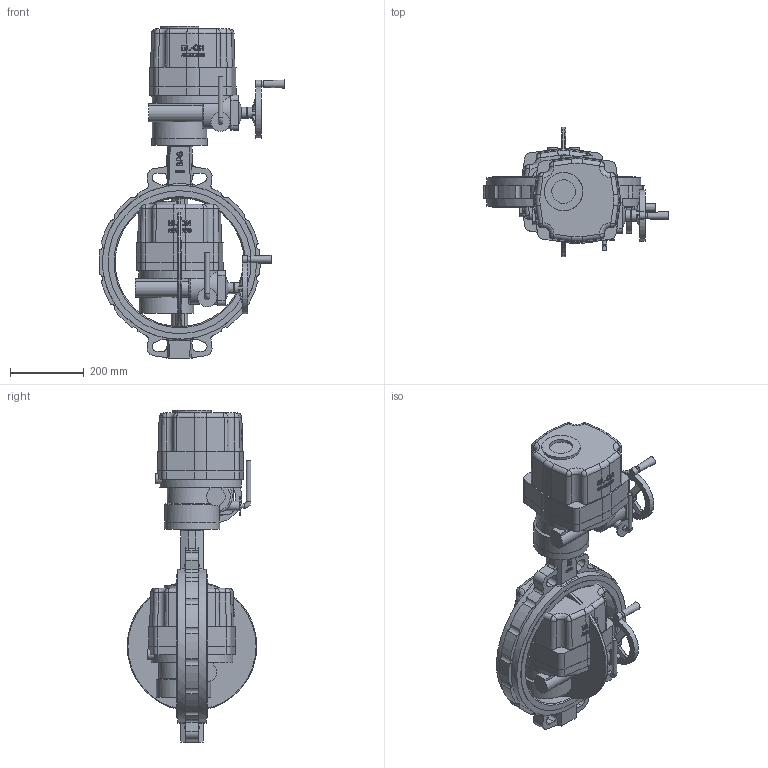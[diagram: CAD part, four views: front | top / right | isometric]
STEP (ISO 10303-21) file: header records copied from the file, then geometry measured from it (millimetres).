
FILE_DESCRIPTION( ( 'Unknown' ), '1' );
FILE_NAME( 'R:/ECCUA/ROOTSI BPS 3D vidinad/Poordklapid Wafer type/Butterfly valve(wafer) with electric actuator BPS/STEP formaat/BPS 2303350E(R) butterfly valve DN350.stp', 'Unknown', ( 'Unknown' ), ( 'Unknown' ), 'PSStep 10.1', 'Unknown', ' ' );
FILE_SCHEMA( ( 'AUTOMOTIVE_DESIGN { 1 0 10303 214 1 1 1 1 }' ) );
Length unit declared in the file: millimetre
Products named in the file (3): Assem1; Butterfly valve wafer type DN350 BPS; BPS 8005300-500 electric actuator DN200-350
Bounding box: 504.71 x 352 x 901 mm (x, y, z)
Volume: 35685399.9 mm3; surface area: 2178855.8 mm2
Topology: 4 solids, 4 shells, 1128 faces, 3016 edges, 1954 vertices
Faces by surface type: plane 424, cylinder 322, bspline 142, extrusion 98, cone 96, torus 30, sphere 16
Full cylindrical faces by diameter (mm): 8.376 x16, 10.106 x16, 13 x4, 14 x8, 15 x2, 18 x2, 25 x2, 27 x4, 30 x4, 35 x2, 52 x2, 64 x2, 104 x2, 106 x2, 134 x2, 148 x2, 150 x2, 350 x2, 388 x4, 418 x4
Entity records: 32889 total; most frequent: CARTESIAN_POINT 15459, ORIENTED_EDGE 2814, DIRECTION 2299, EDGE_CURVE 1407, VERTEX_POINT 954, AXIS2_PLACEMENT_3D 857, EDGE_LOOP 693, FACE_OUTER_BOUND 612
